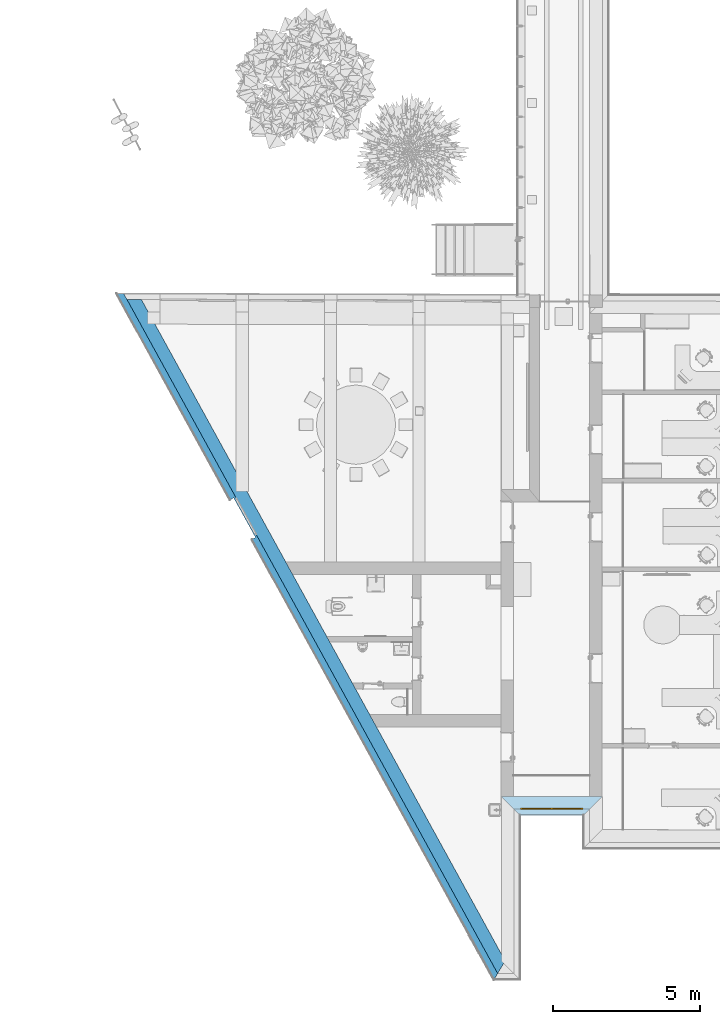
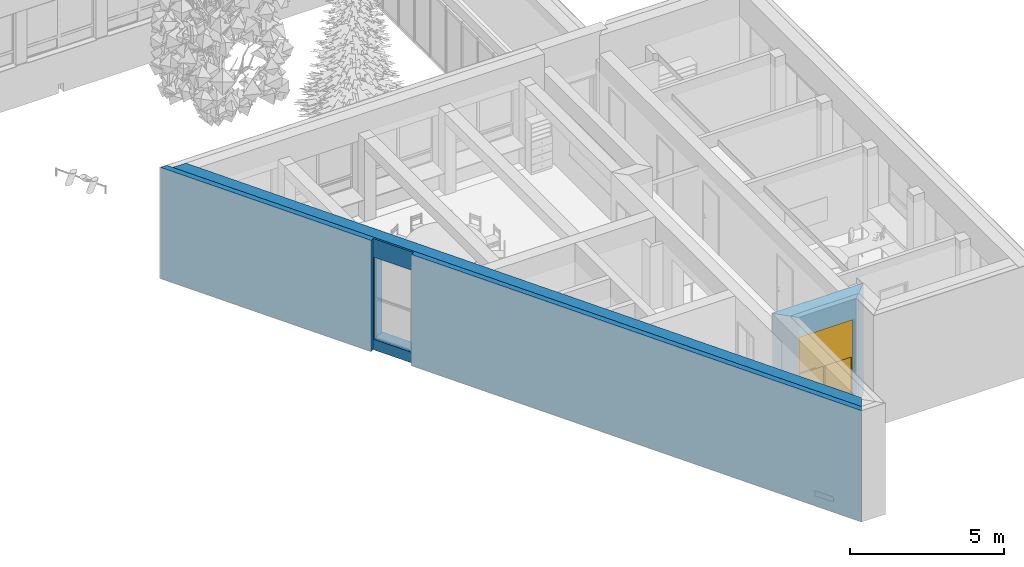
# One storey, part 76 of 194: 2 building element parts, 1 window, 2 openings, 2 elements without a shape of their own, plus 3 elements that do not belong to this part.
"""IFC2X3 building model written with IfcOpenShell, lengths in millimetres."""

from ifc_helpers import new_model, entity, si_unit, converted_unit, derived_unit, money_unit, direction, frame, origin_with_axes, origin_2d_with_axis, place, context, subcontext, project, spatial, polyline, rectangle, outline, extrude, boolean, open_shell, faceted_brep, surface_model, material, type_object, element, fill, aggregate, save


model = new_model("IFC2X3")

# Units and contexts
model_context = context("Model", 3, precision=1e-05, world=origin_with_axes(), true_north=direction((0.0, 1.0)))
body_context = subcontext(model_context, "Body", "Model", "MODEL_VIEW")
ifc_project = project(units=[si_unit("LENGTHUNIT", "METRE", prefix="MILLI"), si_unit("AREAUNIT", "SQUARE_METRE"), si_unit("VOLUMEUNIT", "CUBIC_METRE"), converted_unit("PLANEANGLEUNIT", "DEGREE", entity("IfcPlaneAngleMeasure", 0.0174532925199), si_unit("PLANEANGLEUNIT", "RADIAN"), dimensions=[0, 0, 0, 0, 0, 0, 0]), si_unit("SOLIDANGLEUNIT", "STERADIAN"), money_unit("EUR"), converted_unit("TIMEUNIT", "Year", entity("IfcTimeMeasure", 31556926.0), si_unit("TIMEUNIT", "SECOND"), dimensions=[0, 0, 1, 0, 0, 0, 0]), si_unit("MASSUNIT", "GRAM", prefix="KILO"), si_unit("THERMODYNAMICTEMPERATUREUNIT", "DEGREE_CELSIUS"), si_unit("LUMINOUSINTENSITYUNIT", "LUMEN"), si_unit("ENERGYUNIT", "JOULE", prefix="MEGA"), derived_unit("THERMALCONDUCTANCEUNIT", [(si_unit("POWERUNIT", "WATT"), 1), (si_unit("LENGTHUNIT", "METRE"), -1), (si_unit("THERMODYNAMICTEMPERATUREUNIT", "KELVIN"), -1)]), derived_unit("SPECIFICHEATCAPACITYUNIT", [(si_unit("ENERGYUNIT", "JOULE"), 1), (si_unit("MASSUNIT", "GRAM", prefix="KILO"), -1), (si_unit("THERMODYNAMICTEMPERATUREUNIT", "KELVIN"), -1)]), derived_unit("MASSDENSITYUNIT", [(si_unit("MASSUNIT", "GRAM", prefix="KILO"), 1), (si_unit("VOLUMEUNIT", "CUBIC_METRE"), -1)])], contexts=[model_context])

# Site, building, storey
site_placement = place(None, origin_with_axes())
site = spatial("IfcSite", under=ifc_project, at=site_placement, Name="Site", CompositionType="ELEMENT")
building_placement = place(site_placement, origin_with_axes())
building = spatial("IfcBuilding", under=site, at=building_placement, Name="Building", CompositionType="ELEMENT")
storey_placement = place(building_placement, frame((0.0, 0.0, 3000.0), z_axis=(0.0, 0.0, 1.0), x_axis=(1.0, 0.0, 0.0)))
storey = spatial("IfcBuildingStorey", under=building, at=storey_placement, Name="2 KORRUS", CompositionType="ELEMENT", Elevation=3000.0)

# Window
window_style = type_object("IfcWindowStyle", Name="A4   2\xa0117×3\xa0200", ConstructionType="NOTDEFINED", OperationType="USERDEFINED", ParameterTakesPrecedence=False, Sizeable=False)
wall_2_placement = place(storey_placement, frame((37166.9467048, 5527.1025412, -420.0), z_axis=(0.0, 0.0, 1.0), x_axis=(0.999999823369, -0.000594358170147, 0.0)))
opening_2_placement = place(wall_2_placement, frame((1276.32422598, 0.0, 420.0), z_axis=(0.0, 0.0, 1.0), x_axis=(1.0, 0.0, 0.0)))
window_placement = place(opening_2_placement, frame((-1058.5, 0.0, 0.0), z_axis=(0.0, 0.0, 1.0), x_axis=(1.0, 0.0, 0.0)))
window = element("IfcWindow", 1, at=window_placement, inside=storey, type_object=window_style, Name="välisaken * Double Window 22", OverallHeight=3200.0, OverallWidth=2117.0, context=body_context, shape_type="SurfaceModel", body=[
    faceted_brep([(49.9999999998, -20.0000000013, 3150.0), (50.0, 29.9999999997, 3150.0), (-1.13686837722e-10, 29.9999999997, 3150.0), (-1.13686837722e-10, -20.0000000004, 3150.0), (49.9999999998, -20.0000000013, 50.0), (50.0, 29.9999999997, 50.0), (-1.13686837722e-10, 29.9999999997, 50.0), (-1.13686837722e-10, -20.0000000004, 50.0)], [[[0, 1, 2, 3]], [[4, 5, 1, 0]], [[1, 5, 6, 2]], [[3, 2, 6, 7]], [[0, 3, 7, 4]], [[7, 6, 5, 4]]]),
    faceted_brep([(2067.0, -20.0000000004, 50.0), (2067.0, 29.9999999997, 50.0), (2117.0, 29.9999999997, 50.0), (2117.0, -20.0000000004, 50.0), (2067.0, -20.0000000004, 3150.0), (2067.0, 29.9999999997, 3150.0), (2117.0, 29.9999999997, 3150.0), (2117.0, -20.0000000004, 3150.0)], [[[0, 1, 2, 3]], [[4, 5, 1, 0]], [[1, 5, 6, 2]], [[3, 2, 6, 7]], [[0, 3, 7, 4]], [[7, 6, 5, 4]]]),
    faceted_brep([(1033.5, -19.9999999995, 50.0), (1033.5, 29.9999999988, 50.0), (1083.5, 29.9999999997, 50.0), (1083.5, -19.9999999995, 50.0), (1033.5, -19.9999999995, 3150.0), (1033.5, 29.9999999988, 3150.0), (1083.5, 29.9999999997, 3150.0), (1083.5, -19.9999999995, 3150.0)], [[[0, 1, 2, 3]], [[4, 5, 1, 0]], [[1, 5, 6, 2]], [[3, 2, 6, 7]], [[0, 3, 7, 4]], [[7, 6, 5, 4]]]),
    faceted_brep([(49.9999999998, -20.0000000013, 50.0), (50.0, 29.9999999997, 50.0), (-1.13686837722e-10, 29.9999999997, 50.0), (-1.13686837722e-10, -20.0000000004, 50.0), (1033.5, -19.9999999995, 50.0), (1033.5, 29.9999999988, 50.0), (1083.5, 29.9999999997, 50.0), (2067.0, 29.9999999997, 50.0), (2117.0, 29.9999999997, 50.0), (2117.0, 29.9999999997, 0.0), (-1.13686837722e-10, 29.9999999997, 0.0), (-1.13686837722e-10, -20.0000000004, 0.0), (2117.0, -20.0000000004, 0.0), (2117.0, -20.0000000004, 50.0), (2067.0, -20.0000000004, 50.0), (1083.5, -19.9999999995, 50.0)], [[[0, 1, 2, 3]], [[4, 5, 1, 0]], [[1, 5, 6, 7, 8, 9, 10, 2]], [[3, 2, 10, 11]], [[0, 3, 11, 12, 13, 14, 15, 4]], [[15, 6, 5, 4]], [[14, 7, 6, 15]], [[13, 8, 7, 14]], [[12, 9, 8, 13]], [[11, 10, 9, 12]]]),
    faceted_brep([(1033.5, -19.9999999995, 3150.0), (1033.5, 29.9999999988, 3150.0), (1083.5, 29.9999999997, 3150.0), (1083.5, -19.9999999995, 3150.0), (49.9999999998, -20.0000000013, 3150.0), (50.0, 29.9999999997, 3150.0), (-1.13686837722e-10, 29.9999999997, 3150.0), (-1.13686837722e-10, 29.9999999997, 3200.0), (2117.0, 29.9999999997, 3200.0), (2117.0, 29.9999999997, 3150.0), (2067.0, 29.9999999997, 3150.0), (2067.0, -20.0000000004, 3150.0), (2117.0, -20.0000000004, 3150.0), (2117.0, -20.0000000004, 3200.0), (-1.13686837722e-10, -20.0000000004, 3200.0), (-1.13686837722e-10, -20.0000000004, 3150.0)], [[[0, 1, 2, 3]], [[4, 5, 1, 0]], [[1, 5, 6, 7, 8, 9, 10, 2]], [[3, 2, 10, 11]], [[0, 3, 11, 12, 13, 14, 15, 4]], [[15, 6, 5, 4]], [[14, 7, 6, 15]], [[13, 8, 7, 14]], [[12, 9, 8, 13]], [[11, 10, 9, 12]]]),
    faceted_brep([(99.9999999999, 5.00000000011, 1575.0), (99.9999999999, 29.9999999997, 1575.0), (50.0, 29.9999999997, 1575.0), (50.0, 5.00000000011, 1575.0), (99.9999999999, 5.00000000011, 100.0), (99.9999999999, 29.9999999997, 100.0), (50.0, 29.9999999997, 100.0), (50.0, 5.00000000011, 100.0)], [[[0, 1, 2, 3]], [[4, 5, 1, 0]], [[1, 5, 6, 2]], [[3, 2, 6, 7]], [[0, 3, 7, 4]], [[7, 6, 5, 4]]]),
    faceted_brep([(983.5, 5.00000000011, 100.0), (983.5, 29.9999999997, 100.0), (1033.5, 29.9999999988, 100.0), (1033.5, 5.00000000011, 100.0), (983.5, 5.00000000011, 1575.0), (983.5, 29.9999999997, 1575.0), (1033.5, 29.9999999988, 1575.0), (1033.5, 5.00000000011, 1575.0)], [[[0, 1, 2, 3]], [[4, 5, 1, 0]], [[1, 5, 6, 2]], [[3, 2, 6, 7]], [[0, 3, 7, 4]], [[7, 6, 5, 4]]]),
    faceted_brep([(1033.5, 5.00000000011, 50.0), (1033.5, 29.9999999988, 50.0), (1033.5, 29.9999999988, 100.0), (1033.5, 5.00000000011, 100.0), (50.0, 5.00000000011, 50.0), (50.0, 29.9999999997, 50.0), (50.0, 29.9999999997, 100.0), (99.9999999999, 29.9999999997, 100.0), (983.5, 29.9999999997, 100.0), (983.5, 5.00000000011, 100.0), (99.9999999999, 5.00000000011, 100.0), (50.0, 5.00000000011, 100.0)], [[[0, 1, 2, 3]], [[4, 5, 1, 0]], [[1, 5, 6, 7, 8, 2]], [[3, 2, 8, 9]], [[0, 3, 9, 10, 11, 4]], [[11, 6, 5, 4]], [[10, 7, 6, 11]], [[9, 8, 7, 10]]]),
    faceted_brep([(50.0, 5.00000000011, 1625.0), (50.0, 29.9999999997, 1625.0), (50.0, 29.9999999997, 1575.0), (50.0, 5.00000000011, 1575.0), (1033.5, 5.00000000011, 1625.0), (1033.5, 29.9999999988, 1625.0), (1033.5, 29.9999999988, 1575.0), (983.5, 29.9999999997, 1575.0), (99.9999999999, 29.9999999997, 1575.0), (99.9999999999, 5.00000000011, 1575.0), (983.5, 5.00000000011, 1575.0), (1033.5, 5.00000000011, 1575.0)], [[[0, 1, 2, 3]], [[4, 5, 1, 0]], [[1, 5, 6, 7, 8, 2]], [[3, 2, 8, 9]], [[0, 3, 9, 10, 11, 4]], [[11, 6, 5, 4]], [[10, 7, 6, 11]], [[9, 8, 7, 10]]]),
    surface_model("IfcShellBasedSurfaceModel", [(99.9999999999, 7.49999999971, 100.0), (983.5, 7.49999999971, 100.0), (983.5, 7.49999999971, 1575.0), (99.9999999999, 7.49999999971, 1575.0)], [open_shell([[[0, 1, 2, 3]]])]),
    surface_model("IfcShellBasedSurfaceModel", [(99.9999999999, 27.4999999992, 100.0), (99.9999999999, 27.4999999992, 1575.0), (983.5, 27.4999999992, 1575.0), (983.5, 27.4999999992, 100.0)], [open_shell([[[0, 1, 2, 3]]])]),
    faceted_brep([(99.9999999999, -20.0000000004, 3100.0), (99.9999999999, 5.00000000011, 3100.0), (50.0, 5.00000000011, 3100.0), (49.9999999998, -20.0000000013, 3100.0), (99.9999999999, -20.0000000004, 1625.0), (99.9999999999, 5.00000000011, 1625.0), (50.0, 5.00000000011, 1625.0), (49.9999999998, -20.0000000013, 1625.0)], [[[0, 1, 2, 3]], [[4, 5, 1, 0]], [[1, 5, 6, 2]], [[3, 2, 6, 7]], [[0, 3, 7, 4]], [[7, 6, 5, 4]]]),
    faceted_brep([(983.5, -20.0000000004, 1625.0), (983.5, 5.00000000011, 1625.0), (1033.5, 5.00000000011, 1625.0), (1033.5, -19.9999999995, 1625.0), (983.5, -20.0000000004, 3100.0), (983.5, 5.00000000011, 3100.0), (1033.5, 5.00000000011, 3100.0), (1033.5, -19.9999999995, 3100.0)], [[[0, 1, 2, 3]], [[4, 5, 1, 0]], [[1, 5, 6, 2]], [[3, 2, 6, 7]], [[0, 3, 7, 4]], [[7, 6, 5, 4]]]),
    faceted_brep([(1033.5, -19.9999999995, 1575.0), (1033.5, 5.00000000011, 1575.0), (1033.5, 5.00000000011, 1625.0), (1033.5, -19.9999999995, 1625.0), (49.9999999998, -20.0000000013, 1575.0), (50.0, 5.00000000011, 1575.0), (50.0, 5.00000000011, 1625.0), (99.9999999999, 5.00000000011, 1625.0), (983.5, 5.00000000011, 1625.0), (983.5, -20.0000000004, 1625.0), (99.9999999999, -20.0000000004, 1625.0), (49.9999999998, -20.0000000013, 1625.0)], [[[0, 1, 2, 3]], [[4, 5, 1, 0]], [[1, 5, 6, 7, 8, 2]], [[3, 2, 8, 9]], [[0, 3, 9, 10, 11, 4]], [[11, 6, 5, 4]], [[10, 7, 6, 11]], [[9, 8, 7, 10]]]),
    faceted_brep([(49.9999999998, -20.0000000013, 3150.0), (50.0, 5.00000000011, 3150.0), (50.0, 5.00000000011, 3100.0), (49.9999999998, -20.0000000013, 3100.0), (1033.5, -19.9999999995, 3150.0), (1033.5, 5.00000000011, 3150.0), (1033.5, 5.00000000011, 3100.0), (983.5, 5.00000000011, 3100.0), (99.9999999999, 5.00000000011, 3100.0), (99.9999999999, -20.0000000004, 3100.0), (983.5, -20.0000000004, 3100.0), (1033.5, -19.9999999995, 3100.0)], [[[0, 1, 2, 3]], [[4, 5, 1, 0]], [[1, 5, 6, 7, 8, 2]], [[3, 2, 8, 9]], [[0, 3, 9, 10, 11, 4]], [[11, 6, 5, 4]], [[10, 7, 6, 11]], [[9, 8, 7, 10]]]),
    surface_model("IfcShellBasedSurfaceModel", [(99.9999999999, -17.4999999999, 1625.0), (983.5, -17.4999999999, 1625.0), (983.5, -17.4999999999, 3100.0), (99.9999999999, -17.4999999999, 3100.0)], [open_shell([[[0, 1, 2, 3]]])]),
    surface_model("IfcShellBasedSurfaceModel", [(99.9999999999, 2.4999999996, 1625.0), (99.9999999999, 2.4999999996, 3100.0), (983.5, 2.4999999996, 3100.0), (983.5, 2.4999999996, 1625.0)], [open_shell([[[0, 1, 2, 3]]])]),
    faceted_brep([(1133.5, 4.9999999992, 1575.0), (1133.5, 29.9999999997, 1575.0), (1083.5, 29.9999999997, 1575.0), (1083.5, 4.9999999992, 1575.0), (1133.5, 4.9999999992, 100.0), (1133.5, 29.9999999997, 100.0), (1083.5, 29.9999999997, 100.0), (1083.5, 4.9999999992, 100.0)], [[[0, 1, 2, 3]], [[4, 5, 1, 0]], [[1, 5, 6, 2]], [[3, 2, 6, 7]], [[0, 3, 7, 4]], [[7, 6, 5, 4]]]),
    faceted_brep([(2017.0, 4.9999999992, 100.0), (2017.0, 29.9999999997, 100.0), (2067.0, 29.9999999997, 100.0), (2067.0, 4.9999999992, 100.0), (2017.0, 4.9999999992, 1575.0), (2017.0, 29.9999999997, 1575.0), (2067.0, 29.9999999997, 1575.0), (2067.0, 4.9999999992, 1575.0)], [[[0, 1, 2, 3]], [[4, 5, 1, 0]], [[1, 5, 6, 2]], [[3, 2, 6, 7]], [[0, 3, 7, 4]], [[7, 6, 5, 4]]]),
    faceted_brep([(2067.0, 4.9999999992, 50.0), (2067.0, 29.9999999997, 50.0), (2067.0, 29.9999999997, 100.0), (2067.0, 4.9999999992, 100.0), (1083.5, 4.9999999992, 50.0), (1083.5, 29.9999999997, 50.0), (1083.5, 29.9999999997, 100.0), (1133.5, 29.9999999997, 100.0), (2017.0, 29.9999999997, 100.0), (2017.0, 4.9999999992, 100.0), (1133.5, 4.9999999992, 100.0), (1083.5, 4.9999999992, 100.0)], [[[0, 1, 2, 3]], [[4, 5, 1, 0]], [[1, 5, 6, 7, 8, 2]], [[3, 2, 8, 9]], [[0, 3, 9, 10, 11, 4]], [[11, 6, 5, 4]], [[10, 7, 6, 11]], [[9, 8, 7, 10]]]),
    faceted_brep([(1083.5, 4.9999999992, 1625.0), (1083.5, 29.9999999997, 1625.0), (1083.5, 29.9999999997, 1575.0), (1083.5, 4.9999999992, 1575.0), (2067.0, 4.9999999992, 1625.0), (2067.0, 29.9999999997, 1625.0), (2067.0, 29.9999999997, 1575.0), (2017.0, 29.9999999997, 1575.0), (1133.5, 29.9999999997, 1575.0), (1133.5, 4.9999999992, 1575.0), (2017.0, 4.9999999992, 1575.0), (2067.0, 4.9999999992, 1575.0)], [[[0, 1, 2, 3]], [[4, 5, 1, 0]], [[1, 5, 6, 7, 8, 2]], [[3, 2, 8, 9]], [[0, 3, 9, 10, 11, 4]], [[11, 6, 5, 4]], [[10, 7, 6, 11]], [[9, 8, 7, 10]]]),
    surface_model("IfcShellBasedSurfaceModel", [(1133.5, 7.49999999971, 100.0), (2017.0, 7.49999999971, 100.0), (2017.0, 7.49999999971, 1575.0), (1133.5, 7.49999999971, 1575.0)], [open_shell([[[0, 1, 2, 3]]])]),
    surface_model("IfcShellBasedSurfaceModel", [(1133.5, 27.5000000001, 100.0), (1133.5, 27.5000000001, 1575.0), (2017.0, 27.5000000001, 1575.0), (2017.0, 27.5000000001, 100.0)], [open_shell([[[0, 1, 2, 3]]])]),
    faceted_brep([(1133.5, -20.0000000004, 3100.0), (1133.5, 4.9999999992, 3100.0), (1083.5, 4.9999999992, 3100.0), (1083.5, -19.9999999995, 3100.0), (1133.5, -20.0000000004, 1625.0), (1133.5, 4.9999999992, 1625.0), (1083.5, 4.9999999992, 1625.0), (1083.5, -19.9999999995, 1625.0)], [[[0, 1, 2, 3]], [[4, 5, 1, 0]], [[1, 5, 6, 2]], [[3, 2, 6, 7]], [[0, 3, 7, 4]], [[7, 6, 5, 4]]]),
    faceted_brep([(2017.0, -20.0000000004, 1625.0), (2017.0, 4.9999999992, 1625.0), (2067.0, 4.9999999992, 1625.0), (2067.0, -20.0000000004, 1625.0), (2017.0, -20.0000000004, 3100.0), (2017.0, 4.9999999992, 3100.0), (2067.0, 4.9999999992, 3100.0), (2067.0, -20.0000000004, 3100.0)], [[[0, 1, 2, 3]], [[4, 5, 1, 0]], [[1, 5, 6, 2]], [[3, 2, 6, 7]], [[0, 3, 7, 4]], [[7, 6, 5, 4]]]),
    faceted_brep([(2067.0, -20.0000000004, 1575.0), (2067.0, 4.9999999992, 1575.0), (2067.0, 4.9999999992, 1625.0), (2067.0, -20.0000000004, 1625.0), (1083.5, -19.9999999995, 1575.0), (1083.5, 4.9999999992, 1575.0), (1083.5, 4.9999999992, 1625.0), (1133.5, 4.9999999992, 1625.0), (2017.0, 4.9999999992, 1625.0), (2017.0, -20.0000000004, 1625.0), (1133.5, -20.0000000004, 1625.0), (1083.5, -19.9999999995, 1625.0)], [[[0, 1, 2, 3]], [[4, 5, 1, 0]], [[1, 5, 6, 7, 8, 2]], [[3, 2, 8, 9]], [[0, 3, 9, 10, 11, 4]], [[11, 6, 5, 4]], [[10, 7, 6, 11]], [[9, 8, 7, 10]]]),
    faceted_brep([(1083.5, -19.9999999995, 3150.0), (1083.5, 4.9999999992, 3150.0), (1083.5, 4.9999999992, 3100.0), (1083.5, -19.9999999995, 3100.0), (2067.0, -20.0000000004, 3150.0), (2067.0, 4.9999999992, 3150.0), (2067.0, 4.9999999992, 3100.0), (2017.0, 4.9999999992, 3100.0), (1133.5, 4.9999999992, 3100.0), (1133.5, -20.0000000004, 3100.0), (2017.0, -20.0000000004, 3100.0), (2067.0, -20.0000000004, 3100.0)], [[[0, 1, 2, 3]], [[4, 5, 1, 0]], [[1, 5, 6, 7, 8, 2]], [[3, 2, 8, 9]], [[0, 3, 9, 10, 11, 4]], [[11, 6, 5, 4]], [[10, 7, 6, 11]], [[9, 8, 7, 10]]]),
    surface_model("IfcShellBasedSurfaceModel", [(1133.5, -17.4999999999, 1625.0), (2017.0, -17.4999999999, 1625.0), (2017.0, -17.4999999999, 3100.0), (1133.5, -17.4999999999, 3100.0)], [open_shell([[[0, 1, 2, 3]]])]),
    surface_model("IfcShellBasedSurfaceModel", [(1133.5, 2.4999999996, 1625.0), (1133.5, 2.4999999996, 3100.0), (2017.0, 2.4999999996, 3100.0), (2017.0, 2.4999999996, 1625.0)], [open_shell([[[0, 1, 2, 3]]])]),
])

# Wall, opening, building element parts
wall_type = type_object("IfcWallType", Name="VS4", PredefinedType="NOTDEFINED")
wall_1_placement = place(storey_placement, frame((24039.9995096, 22808.1040573, -420.0), z_axis=(0.0, 0.0, 1.0), x_axis=(0.481920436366, -0.876214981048, 0.0)))
wall_1 = element("IfcWall", 2, at=wall_1_placement, inside=storey, type_object=wall_type, Name="VS4")
opening_1_placement = place(wall_1_placement, frame((8392.10289365, 0.0, 420.0), z_axis=(0.0, 0.0, 1.0), x_axis=(1.0, 0.0, 0.0)))
element("IfcOpeningElement", 3, at=opening_1_placement, cuts=wall_1, Name="välisaken * Window 22", context=body_context, shape_type="SweptSolid", body=[
    extrude(rectangle(XDim=1450.0, YDim=3250.0, at=origin_2d_with_axis()), frame((0.0, -20.0000000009, 1625.0), z_axis=(0.0, 1.0, 0.0), x_axis=(1.0, 0.0, 0.0)), (0.0, 0.0, 1.0), 1100.0),
    extrude(rectangle(XDim=1450.0, YDim=3250.0, at=origin_2d_with_axis()), frame((-9.09494701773e-10, -20.0000000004, 1625.0), z_axis=(0.0, -1.0, 0.0), x_axis=(1.0, 0.0, 0.0)), (0.0, 0.0, 1.0), 850.000000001),
])
ifc_material_1 = material(Name="Tellis - Konstuktsioon")
building_element_part_1_placement = place(wall_1_placement, origin_with_axes())
building_element_part_1 = element("IfcBuildingElementPart", 4, at=building_element_part_1_placement, material=ifc_material_1, Name="Tellis - Konstuktsioon", context=body_context, shape_type="CSG", body=[
    boolean("DIFFERENCE", boolean("DIFFERENCE", boolean("DIFFERENCE", boolean("DIFFERENCE", boolean("DIFFERENCE", boolean("DIFFERENCE", boolean("DIFFERENCE", boolean("DIFFERENCE", extrude(outline(polyline([(-373.259010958, -4.54747350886e-10), (26581.6459271, 0.0), (26581.6459271, 430.0), (-373.259010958, 430.0), (-373.259010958, -4.54747350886e-10)])), origin_with_axes(), (0.0, 0.0, 1.0), 4400.0), faceted_brep([(0.0, 0.0, 4400.0), (238.054195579, 429.999999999, 4400.0), (-373.259010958, 430.0, 4400.0), (-373.259010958, -9.09494701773e-10, 4400.0), (238.054195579, 429.999999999, 0.0), (0.0, 0.0, 0.0), (-373.259010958, 430.0, 0.0), (-373.259010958, -9.09494701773e-10, 0.0)], [[[0, 1, 2, 3]], [[4, 1, 0, 5]], [[1, 4, 6, 2]], [[2, 6, 7, 3]], [[5, 0, 3, 7]], [[4, 5, 7, 6]]])), faceted_brep([(25839.8188481, 429.999999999, 0.0), (25839.8188481, 429.999999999, 4400.0), (26581.6459271, 429.999999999, 4400.0), (26581.6459271, 429.999999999, 0.0), (26094.0649146, -4.54747350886e-10, 4400.0), (26094.0649146, -4.54747350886e-10, 0.0), (26581.6459271, 0.0, 4400.0), (26581.6459271, 0.0, 0.0)], [[[0, 1, 2, 3]], [[4, 1, 0, 5]], [[1, 4, 6, 2]], [[6, 7, 3, 2]], [[5, 0, 3, 7]], [[4, 5, 7, 6]]])), faceted_brep([(-339.326373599, -200.0, 4400.0), (-228.603491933, -4.54747350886e-10, 4400.0), (-373.259010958, -9.09494701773e-10, 4400.0), (-373.259010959, -200.0, 4400.0), (-228.603491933, -4.54747350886e-10, 0.0), (-339.326373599, -200.0, 0.0), (-373.259010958, -9.09494701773e-10, 0.0), (-373.259010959, -200.0, 0.0)], [[[0, 1, 2, 3]], [[4, 1, 0, 5]], [[1, 4, 6, 2]], [[2, 6, 7, 3]], [[5, 0, 3, 7]], [[4, 5, 7, 6]]])), faceted_brep([(7639.6142194, -72.1189451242, 4400.0), (7639.81547585, -200.0, 4400.0), (9169.37816781, -200.0, 4400.0), (9169.17312297, -69.7117582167, 4400.0), (7639.6142194, -72.1189451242, 0.0), (7639.81547585, -200.0, 0.0), (9169.37816781, -200.0, 0.0), (9169.17312297, -69.7117582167, 0.0)], [[[0, 1, 2, 3]], [[1, 0, 4, 5]], [[6, 2, 1, 5]], [[3, 2, 6, 7]], [[0, 3, 7, 4]], [[7, 6, 5, 4]]])), faceted_brep([(26094.0649146, -4.54747350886e-10, 0.0), (26094.0649146, -4.54747350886e-10, 4400.0), (26581.6459271, 0.0, 4400.0), (26581.6459271, 0.0, 0.0), (26212.318899, -200.000000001, 4400.0), (26212.318899, -200.000000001, 0.0), (26581.6459271, -200.0, 4400.0), (26581.6459271, -200.0, 0.0)], [[[0, 1, 2, 3]], [[4, 1, 0, 5]], [[1, 4, 6, 2]], [[6, 7, 3, 2]], [[5, 0, 3, 7]], [[4, 5, 7, 6]]])), faceted_brep([(-373.259010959, -220.0, 4400.0), (-362.186722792, -200.0, 4400.0), (-373.259010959, -200.0, 4400.0), (-362.186722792, -200.0, 0.0), (-373.259010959, -220.0, 0.0), (-373.259010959, -200.0, 0.0)], [[[0, 1, 2]], [[3, 1, 0, 4]], [[1, 3, 5, 2]], [[4, 0, 2, 5]], [[3, 4, 5]]])), faceted_brep([(9169.37816781, -200.0, 4400.0), (9169.37816781, -200.0, 0.0), (7639.81547585, -200.0, 0.0), (7639.81547585, -200.0, 4400.0), (9169.40964338, -220.0, 4400.0), (9169.40964338, -220.0, 0.0), (7639.84695142, -220.0, 0.0), (7639.84695142, -220.0, 4400.0)], [[[0, 1, 2, 3]], [[1, 0, 4, 5]], [[1, 5, 6, 2]], [[7, 3, 2, 6]], [[4, 0, 3, 7]], [[5, 4, 7, 6]]])), faceted_brep([(26212.318899, -200.000000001, 0.0), (26212.318899, -200.000000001, 4400.0), (26581.6459271, -200.0, 4400.0), (26581.6459271, -200.0, 0.0), (26224.1442975, -220.0, 4400.0), (26224.1442975, -220.0, 0.0), (26581.6459271, -220.000000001, 4400.0), (26581.6459271, -220.000000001, 0.0)], [[[0, 1, 2, 3]], [[4, 1, 0, 5]], [[1, 4, 6, 2]], [[6, 7, 3, 2]], [[5, 0, 3, 7]], [[4, 5, 7, 6]]])),
])
ifc_material_2 = material(Name="Soojustus - Plastik Kõva")
building_element_part_2_placement = place(wall_1_placement, origin_with_axes())
building_element_part_2 = element("IfcBuildingElementPart", 5, at=building_element_part_2_placement, material=ifc_material_2, Name="Soojustus - Plastik Kõva", context=body_context, shape_type="CSG", body=[
    boolean("DIFFERENCE", boolean("DIFFERENCE", boolean("DIFFERENCE", boolean("DIFFERENCE", boolean("DIFFERENCE", boolean("DIFFERENCE", boolean("DIFFERENCE", boolean("DIFFERENCE", extrude(outline(polyline([(-373.259010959, -200.0), (26581.6459271, -200.0), (26581.6459271, 0.0), (-373.259010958, -4.54747350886e-10), (-373.259010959, -200.0)])), origin_with_axes(), (0.0, 0.0, 1.0), 4400.0), faceted_brep([(0.0, 0.0, 4400.0), (238.054195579, 429.999999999, 4400.0), (-373.259010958, 430.0, 4400.0), (-373.259010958, -9.09494701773e-10, 4400.0), (238.054195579, 429.999999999, 0.0), (0.0, 0.0, 0.0), (-373.259010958, 430.0, 0.0), (-373.259010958, -9.09494701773e-10, 0.0)], [[[0, 1, 2, 3]], [[4, 1, 0, 5]], [[1, 4, 6, 2]], [[2, 6, 7, 3]], [[5, 0, 3, 7]], [[4, 5, 7, 6]]])), faceted_brep([(25839.8188481, 429.999999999, 0.0), (25839.8188481, 429.999999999, 4400.0), (26581.6459271, 429.999999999, 4400.0), (26581.6459271, 429.999999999, 0.0), (26094.0649146, -4.54747350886e-10, 4400.0), (26094.0649146, -4.54747350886e-10, 0.0), (26581.6459271, 0.0, 4400.0), (26581.6459271, 0.0, 0.0)], [[[0, 1, 2, 3]], [[4, 1, 0, 5]], [[1, 4, 6, 2]], [[6, 7, 3, 2]], [[5, 0, 3, 7]], [[4, 5, 7, 6]]])), faceted_brep([(-339.326373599, -200.0, 4400.0), (-228.603491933, -4.54747350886e-10, 4400.0), (-373.259010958, -9.09494701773e-10, 4400.0), (-373.259010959, -200.0, 4400.0), (-228.603491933, -4.54747350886e-10, 0.0), (-339.326373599, -200.0, 0.0), (-373.259010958, -9.09494701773e-10, 0.0), (-373.259010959, -200.0, 0.0)], [[[0, 1, 2, 3]], [[4, 1, 0, 5]], [[1, 4, 6, 2]], [[2, 6, 7, 3]], [[5, 0, 3, 7]], [[4, 5, 7, 6]]])), faceted_brep([(7639.6142194, -72.1189451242, 4400.0), (7639.81547585, -200.0, 4400.0), (9169.37816781, -200.0, 4400.0), (9169.17312297, -69.7117582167, 4400.0), (7639.6142194, -72.1189451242, 0.0), (7639.81547585, -200.0, 0.0), (9169.37816781, -200.0, 0.0), (9169.17312297, -69.7117582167, 0.0)], [[[0, 1, 2, 3]], [[1, 0, 4, 5]], [[6, 2, 1, 5]], [[3, 2, 6, 7]], [[0, 3, 7, 4]], [[7, 6, 5, 4]]])), faceted_brep([(26094.0649146, -4.54747350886e-10, 0.0), (26094.0649146, -4.54747350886e-10, 4400.0), (26581.6459271, 0.0, 4400.0), (26581.6459271, 0.0, 0.0), (26212.318899, -200.000000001, 4400.0), (26212.318899, -200.000000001, 0.0), (26581.6459271, -200.0, 4400.0), (26581.6459271, -200.0, 0.0)], [[[0, 1, 2, 3]], [[4, 1, 0, 5]], [[1, 4, 6, 2]], [[6, 7, 3, 2]], [[5, 0, 3, 7]], [[4, 5, 7, 6]]])), faceted_brep([(-373.259010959, -220.0, 4400.0), (-362.186722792, -200.0, 4400.0), (-373.259010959, -200.0, 4400.0), (-362.186722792, -200.0, 0.0), (-373.259010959, -220.0, 0.0), (-373.259010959, -200.0, 0.0)], [[[0, 1, 2]], [[3, 1, 0, 4]], [[1, 3, 5, 2]], [[4, 0, 2, 5]], [[3, 4, 5]]])), faceted_brep([(9169.37816781, -200.0, 4400.0), (9169.37816781, -200.0, 0.0), (7639.81547585, -200.0, 0.0), (7639.81547585, -200.0, 4400.0), (9169.40964338, -220.0, 4400.0), (9169.40964338, -220.0, 0.0), (7639.84695142, -220.0, 0.0), (7639.84695142, -220.0, 4400.0)], [[[0, 1, 2, 3]], [[1, 0, 4, 5]], [[1, 5, 6, 2]], [[7, 3, 2, 6]], [[4, 0, 3, 7]], [[5, 4, 7, 6]]])), faceted_brep([(26212.318899, -200.000000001, 0.0), (26212.318899, -200.000000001, 4400.0), (26581.6459271, -200.0, 4400.0), (26581.6459271, -200.0, 0.0), (26224.1442975, -220.0, 4400.0), (26224.1442975, -220.0, 0.0), (26581.6459271, -220.000000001, 4400.0), (26581.6459271, -220.000000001, 0.0)], [[[0, 1, 2, 3]], [[4, 1, 0, 5]], [[1, 4, 6, 2]], [[6, 7, 3, 2]], [[5, 0, 3, 7]], [[4, 5, 7, 6]]])),
])
aggregate(wall_1, [building_element_part_1, building_element_part_2])

# Wall, opening
wall_2 = element("IfcWall", 6, at=wall_2_placement, inside=storey, type_object=wall_type, Name="VS4")
opening_2 = element("IfcOpeningElement", 7, at=opening_2_placement, cuts=wall_2, Name="välisaken * Double Window 22", context=body_context, shape_type="SweptSolid", body=[
    extrude(rectangle(XDim=2117.0, YDim=3200.0, at=origin_2d_with_axis()), frame((0.0, -19.9999999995, 1600.0), z_axis=(0.0, -1.0, 0.0), x_axis=(1.0, 0.0, 0.0)), (0.0, 0.0, -1.0), 1100.0),
    extrude(rectangle(XDim=2117.0, YDim=3200.0, at=origin_2d_with_axis()), frame((-1.13686837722e-10, -19.9999999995, 1600.0), z_axis=(0.0, 1.0, 0.0), x_axis=(1.0, 0.0, 0.0)), (0.0, 0.0, -1.0), 850.000000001),
])

fill(opening_2, window)

# Building element part
building_element_part_3_placement = place(wall_2_placement, origin_with_axes())
building_element_part_3 = element("IfcBuildingElementPart", 8, at=building_element_part_3_placement, material=ifc_material_1, Name="Tellis - Konstuktsioon", context=body_context, shape_type="SweptSolid", body=[
    extrude(outline(polyline([(0.0, 0.0), (2567.09365053, 9.09494701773e-10), (2996.83815242, 430.0), (-430.25565001, 429.999999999), (0.0, 0.0)])), origin_with_axes(), (0.0, 0.0, 1.0), 4400.0),
])

building_element_part_4_placement = place(wall_2_placement, origin_with_axes())
building_element_part_4 = element("IfcBuildingElementPart", 9, at=building_element_part_4_placement, material=ifc_material_2, Name="Soojustus - Plastik Kõva", context=body_context, shape_type="SweptSolid", body=[
    extrude(outline(polyline([(200.118906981, -200.0), (2367.21248685, -200.0), (2567.09365053, 9.09494701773e-10), (0.0, 0.0), (200.118906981, -200.0)])), origin_with_axes(), (0.0, 0.0, 1.0), 4400.0),
])

ifc_material_3 = material(Name="Tellis - Viimistlus")
building_element_part_5_placement = place(wall_2_placement, origin_with_axes())
building_element_part_5 = element("IfcBuildingElementPart", 10, at=building_element_part_5_placement, material=ifc_material_3, Name="Tellis - Viimistlus", context=body_context, shape_type="SweptSolid", body=[
    extrude(outline(polyline([(220.130797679, -220.0), (2347.22437049, -220.0), (2367.21248685, -200.0), (200.118906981, -200.0), (220.130797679, -220.0)])), origin_with_axes(), (0.0, 0.0, 1.0), 4400.0),
])

aggregate(wall_2, [building_element_part_3, building_element_part_4, building_element_part_5])

save(model, "model.ifc")
